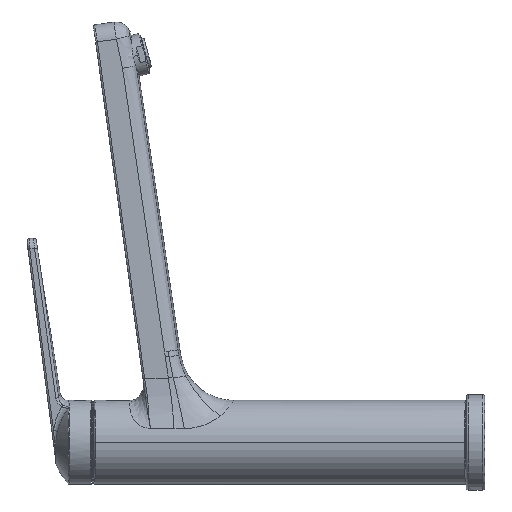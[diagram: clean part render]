
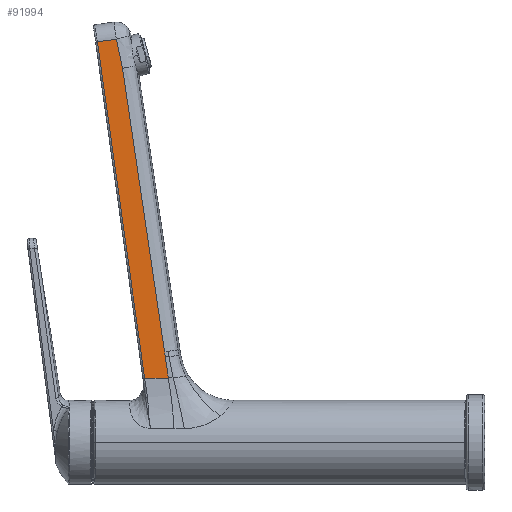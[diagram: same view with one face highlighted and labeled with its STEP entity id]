
A CAD part, left-side view. The second image highlights one B-rep face of the part: STEP entity #91994.
In plain terms, the highlighted planar face has unit normal (-1, 0, 0.007).
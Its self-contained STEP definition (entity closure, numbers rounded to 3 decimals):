
#17295=CARTESIAN_POINT('',(-17.811,119.904,
37.191));
#17305=DIRECTION('',(0.,1.,0.));
#17306=VECTOR('',#17305,13.716);
#17307=CARTESIAN_POINT('',(-17.811,106.188,
37.191));
#17308=LINE('',#17307,#17306);
#17557=CARTESIAN_POINT('',(-16.455,147.253,
231.471));
#17558=CARTESIAN_POINT('',(-16.606,144.214,
209.883));
#17559=CARTESIAN_POINT('',(-16.907,138.136,
166.707));
#17560=CARTESIAN_POINT('',(-17.359,129.02,
101.947));
#17561=CARTESIAN_POINT('',(-17.66,122.943,
58.776));
#17562=CARTESIAN_POINT('',(-17.811,119.904,
37.191));
#17564=DIRECTION('',(0.001,-0.99,0.139));
#17565=VECTOR('',#17564,11.161);
#17566=CARTESIAN_POINT('',(-16.455,147.253,
231.471));
#17567=LINE('',#17566,#17565);
#17568=CARTESIAN_POINT('',(-16.561,132.694,
216.25));
#17569=CARTESIAN_POINT('',(-16.554,132.839,
217.212));
#17570=CARTESIAN_POINT('',(-16.541,133.146,
219.128));
#17571=CARTESIAN_POINT('',(-16.521,133.657,
221.974));
#17572=CARTESIAN_POINT('',(-16.501,134.218,
224.789));
#17573=CARTESIAN_POINT('',(-16.482,134.829,
227.572));
#17574=CARTESIAN_POINT('',(-16.463,135.487,
230.32));
#17575=CARTESIAN_POINT('',(-16.45,135.957,
232.127));
#17576=CARTESIAN_POINT('',(-16.444,136.2,
233.024));
#17578=CARTESIAN_POINT('',(-17.705,108.434,
52.378));
#17579=CARTESIAN_POINT('',(-17.63,110.017,
63.089));
#17580=CARTESIAN_POINT('',(-17.482,113.158,
84.334));
#17581=CARTESIAN_POINT('',(-17.247,118.137,
117.939));
#17582=CARTESIAN_POINT('',(-17.048,122.372,
146.477));
#17583=CARTESIAN_POINT('',(-16.867,126.193,
172.371));
#17584=CARTESIAN_POINT('',(-16.705,129.626,
195.707));
#17585=CARTESIAN_POINT('',(-16.607,131.706,
209.674));
#17586=CARTESIAN_POINT('',(-16.561,132.694,
216.25));
#17629=CARTESIAN_POINT('',(-16.444,136.2,
233.024));
#18128=CARTESIAN_POINT('',(-17.811,106.188,
37.191));
#18136=CARTESIAN_POINT('',(-17.725,108.012,
49.528));
#18137=CARTESIAN_POINT('',(-17.754,107.404,
45.416));
#18138=CARTESIAN_POINT('',(-17.782,106.796,
41.303));
#18139=CARTESIAN_POINT('',(-17.811,106.188,
37.191));
#18141=CARTESIAN_POINT('',(-17.705,108.434,
52.378));
#18152=CARTESIAN_POINT('',(-17.725,108.012,
49.528));
#18158=CARTESIAN_POINT('',(-17.705,108.434,
52.378));
#18159=CARTESIAN_POINT('',(-17.712,108.293,
51.427));
#18160=CARTESIAN_POINT('',(-17.718,108.153,
50.48));
#18161=CARTESIAN_POINT('',(-17.725,108.012,
49.528));
#62289=VERTEX_POINT('',#17629);
#62291=VERTEX_POINT('',#17568);
#62302=VERTEX_POINT('',#18141);
#62320=VERTEX_POINT('',#18152);
#62321=VERTEX_POINT('',#18128);
#62331=VERTEX_POINT('',#17295);
#62333=VERTEX_POINT('',#17557);
#91975=CARTESIAN_POINT('',(-16.5,-65.5,225.));
#91976=DIRECTION('',(1.,0.,-0.007));
#91977=DIRECTION('',(-0.007,0.,-1.));
#91978=AXIS2_PLACEMENT_3D('',#91975,#91976,#91977);
#91979=PLANE('',#91978);
#91980=ORIENTED_EDGE('',*,*,#91966,.F.);
#91982=ORIENTED_EDGE('',*,*,#91981,.T.);
#91984=ORIENTED_EDGE('',*,*,#91983,.F.);
#91986=ORIENTED_EDGE('',*,*,#91985,.F.);
#91988=ORIENTED_EDGE('',*,*,#91987,.T.);
#91990=ORIENTED_EDGE('',*,*,#91989,.T.);
#91991=ORIENTED_EDGE('',*,*,#91614,.T.);
#91992=EDGE_LOOP('',(#91980,#91982,#91984,#91986,#91988,#91990,#91991));
#91993=FACE_OUTER_BOUND('',#91992,.F.);
#91994=ADVANCED_FACE('',(#91993),#91979,.F.);
#17563=B_SPLINE_CURVE_WITH_KNOTS('',3,(#17557,#17558,#17559,#17560,#17561,
#17562),.UNSPECIFIED.,.F.,.F.,(4,1,1,4),(0.,0.333,
0.667,1.),.UNSPECIFIED.);
#17577=B_SPLINE_CURVE_WITH_KNOTS('',3,(#17568,#17569,#17570,#17571,#17572,
#17573,#17574,#17575,#17576),.UNSPECIFIED.,.F.,.F.,(4,1,1,1,1,1,4),(0.,
0.167,0.333,0.5,0.667,0.833,
1.),.UNSPECIFIED.);
#17587=B_SPLINE_CURVE_WITH_KNOTS('',3,(#17578,#17579,#17580,#17581,#17582,
#17583,#17584,#17585,#17586),.UNSPECIFIED.,.F.,.F.,(4,1,1,1,1,1,4),(0.,
0.167,0.333,0.5,0.667,0.833,
1.),.UNSPECIFIED.);
#18140=B_SPLINE_CURVE_WITH_KNOTS('',3,(#18136,#18137,#18138,#18139),
.UNSPECIFIED.,.F.,.F.,(4,4),(0.,1.),.UNSPECIFIED.);
#18162=B_SPLINE_CURVE_WITH_KNOTS('',3,(#18158,#18159,#18160,#18161),
.UNSPECIFIED.,.F.,.F.,(4,4),(0.,1.),.UNSPECIFIED.);
#91614=EDGE_CURVE('',#62321,#62331,#17308,.T.);
#91966=EDGE_CURVE('',#62333,#62331,#17563,.T.);
#91981=EDGE_CURVE('',#62333,#62289,#17567,.T.);
#91983=EDGE_CURVE('',#62291,#62289,#17577,.T.);
#91985=EDGE_CURVE('',#62302,#62291,#17587,.T.);
#91987=EDGE_CURVE('',#62302,#62320,#18162,.T.);
#91989=EDGE_CURVE('',#62320,#62321,#18140,.T.);
